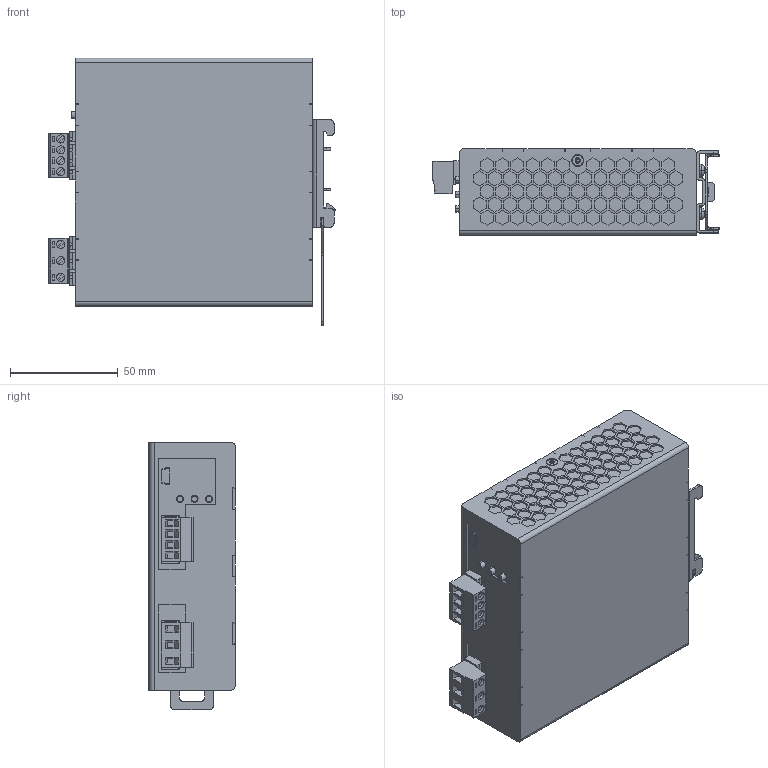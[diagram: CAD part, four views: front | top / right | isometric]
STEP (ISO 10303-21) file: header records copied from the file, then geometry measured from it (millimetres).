
FILE_DESCRIPTION (( 'STEP AP214' ), '1' );
FILE_NAME ('NDW240_3D_light.STEP', '2017-01-19T13:26:42', ( 'miky' ), ( 'Microsoft' ), 'SwSTEP 2.0', 'SolidWorks 2014', '' );
FILE_SCHEMA (( 'AUTOMOTIVE_DESIGN' ));
Length unit declared in the file: millimetre
Products named in the file (1): NDW240_3D_light
Bounding box: 132.7 x 40 x 124.21 mm (x, y, z)
Volume: 512696.5 mm3; surface area: 57274.8 mm2
Topology: 1 solids, 9 shells, 1979 faces, 5326 edges, 3511 vertices
Faces by surface type: plane 1616, cylinder 288, cone 57, torus 10, bspline 8
Entity records: 83714 total; most frequent: CARTESIAN_POINT 11502, ORIENTED_EDGE 10652, DIRECTION 9975, EDGE_CURVE 5326, VECTOR 4471, LINE 4471, VERTEX_POINT 3511, AXIS2_PLACEMENT_3D 2752
